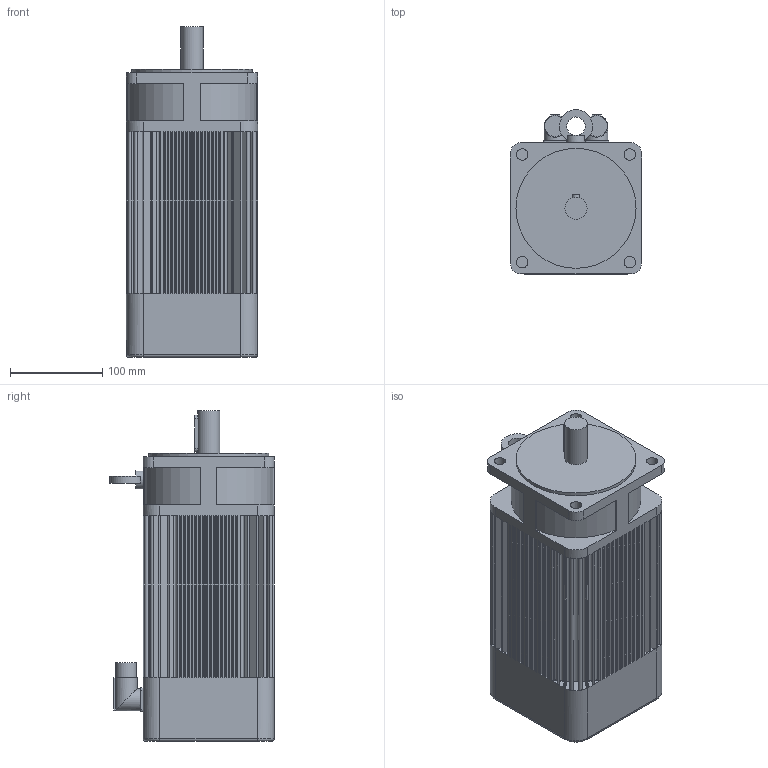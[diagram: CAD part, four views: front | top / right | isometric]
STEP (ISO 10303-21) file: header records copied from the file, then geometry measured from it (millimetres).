
FILE_DESCRIPTION(/* description */ (''),/* implementation_level */ '2;1');
FILE_NAME(/* name */ '\\Lafnas01\disegni\Archivi Lafert\3D\CAD 3D\MODELLI\Assiemi clienti\Serad\Modelli 3D Serad\B71I\Resolver\Res Without Brake\B7120Ixx6A052033.ipt.stp',/* time_stamp */ '2015-09-07T10:52:08+02:00',/* author */ ('Pastrello Ylenia'),/* organization */ (''),/* preprocessor_version */ 'ST-DEVELOPER v15.6',/* originating_system */ 'Autodesk Inventor 2015',/* authorisation */ '');
FILE_SCHEMA (('AUTOMOTIVE_DESIGN { 1 0 10303 214 3 1 1 }'));
Length unit declared in the file: millimetre
Products named in the file (1): B7120Ixx6A052033
Bounding box: 142 x 178 x 358.5 mm (x, y, z)
Volume: 5808338.4 mm3; surface area: 321881.1 mm2
Topology: 1 solids, 1 shells, 547 faces, 1378 edges, 903 vertices
Faces by surface type: plane 430, cylinder 113, torus 4
Full cylindrical faces by diameter (mm): 12.5 x4, 20 x2, 22.7 x2, 24 x3, 130 x1
Entity records: 16305 total; most frequent: CARTESIAN_POINT 2863, DIRECTION 2786, ORIENTED_EDGE 2724, EDGE_CURVE 1362, LINE 1026, VECTOR 1026, VERTEX_POINT 900, AXIS2_PLACEMENT_3D 880
